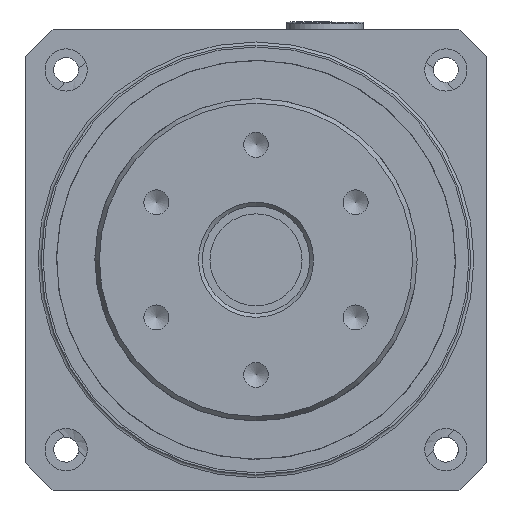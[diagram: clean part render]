
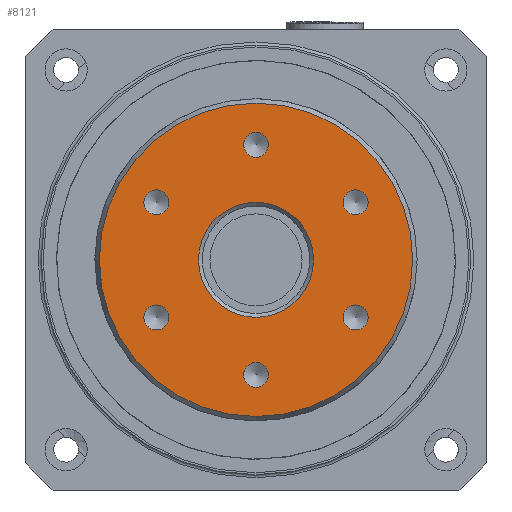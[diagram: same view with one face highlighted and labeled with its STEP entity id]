
A CAD part, left-side view. The second image highlights one B-rep face of the part: STEP entity #8121.
In plain terms, the highlighted planar face has unit normal (-1, 0, 0).
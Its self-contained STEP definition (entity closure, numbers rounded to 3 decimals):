
#729=FACE_BOUND('',#2179,.T.);
#730=FACE_BOUND('',#2180,.T.);
#731=FACE_BOUND('',#2181,.T.);
#732=FACE_BOUND('',#2182,.T.);
#733=FACE_BOUND('',#2183,.T.);
#734=FACE_BOUND('',#2184,.T.);
#735=FACE_BOUND('',#2185,.T.);
#1513=PLANE('',#9099);
#1690=FACE_OUTER_BOUND('',#2178,.T.);
#2178=EDGE_LOOP('',(#5971));
#2179=EDGE_LOOP('',(#5972,#5973));
#2180=EDGE_LOOP('',(#5974,#5975));
#2181=EDGE_LOOP('',(#5976,#5977));
#2182=EDGE_LOOP('',(#5978,#5979));
#2183=EDGE_LOOP('',(#5980,#5981));
#2184=EDGE_LOOP('',(#5982,#5983));
#2185=EDGE_LOOP('',(#5984));
#2781=CIRCLE('',#9096,7.5);
#2784=CIRCLE('',#9100,20.423);
#2785=CIRCLE('',#9101,1.621);
#2786=CIRCLE('',#9102,1.621);
#2787=CIRCLE('',#9103,1.621);
#2788=CIRCLE('',#9104,1.621);
#2789=CIRCLE('',#9105,1.621);
#2790=CIRCLE('',#9106,1.621);
#2791=CIRCLE('',#9107,1.621);
#2792=CIRCLE('',#9108,1.621);
#2793=CIRCLE('',#9109,1.621);
#2794=CIRCLE('',#9110,1.621);
#2795=CIRCLE('',#9111,1.621);
#2796=CIRCLE('',#9112,1.621);
#3628=VERTEX_POINT('',#13309);
#3631=VERTEX_POINT('',#13317);
#3632=VERTEX_POINT('',#13319);
#3633=VERTEX_POINT('',#13320);
#3634=VERTEX_POINT('',#13323);
#3635=VERTEX_POINT('',#13324);
#3636=VERTEX_POINT('',#13327);
#3637=VERTEX_POINT('',#13328);
#3638=VERTEX_POINT('',#13331);
#3639=VERTEX_POINT('',#13332);
#3640=VERTEX_POINT('',#13335);
#3641=VERTEX_POINT('',#13336);
#3642=VERTEX_POINT('',#13339);
#3643=VERTEX_POINT('',#13340);
#4617=EDGE_CURVE('',#3628,#3628,#2781,.T.);
#4621=EDGE_CURVE('',#3631,#3631,#2784,.T.);
#4622=EDGE_CURVE('',#3632,#3633,#2785,.T.);
#4623=EDGE_CURVE('',#3633,#3632,#2786,.T.);
#4624=EDGE_CURVE('',#3634,#3635,#2787,.T.);
#4625=EDGE_CURVE('',#3635,#3634,#2788,.T.);
#4626=EDGE_CURVE('',#3636,#3637,#2789,.T.);
#4627=EDGE_CURVE('',#3637,#3636,#2790,.T.);
#4628=EDGE_CURVE('',#3638,#3639,#2791,.T.);
#4629=EDGE_CURVE('',#3639,#3638,#2792,.T.);
#4630=EDGE_CURVE('',#3640,#3641,#2793,.T.);
#4631=EDGE_CURVE('',#3641,#3640,#2794,.T.);
#4632=EDGE_CURVE('',#3642,#3643,#2795,.T.);
#4633=EDGE_CURVE('',#3643,#3642,#2796,.T.);
#5971=ORIENTED_EDGE('',*,*,#4621,.F.);
#5972=ORIENTED_EDGE('',*,*,#4622,.T.);
#5973=ORIENTED_EDGE('',*,*,#4623,.T.);
#5974=ORIENTED_EDGE('',*,*,#4624,.T.);
#5975=ORIENTED_EDGE('',*,*,#4625,.T.);
#5976=ORIENTED_EDGE('',*,*,#4626,.T.);
#5977=ORIENTED_EDGE('',*,*,#4627,.T.);
#5978=ORIENTED_EDGE('',*,*,#4628,.T.);
#5979=ORIENTED_EDGE('',*,*,#4629,.T.);
#5980=ORIENTED_EDGE('',*,*,#4630,.T.);
#5981=ORIENTED_EDGE('',*,*,#4631,.T.);
#5982=ORIENTED_EDGE('',*,*,#4632,.T.);
#5983=ORIENTED_EDGE('',*,*,#4633,.T.);
#5984=ORIENTED_EDGE('',*,*,#4617,.F.);
#8121=ADVANCED_FACE('',(#1690,#729,#730,#731,#732,#733,#734,#735),#1513,
 .T.);
#9096=AXIS2_PLACEMENT_3D('',#13310,#10507,#10508);
#9099=AXIS2_PLACEMENT_3D('',#13316,#10514,#10515);
#9100=AXIS2_PLACEMENT_3D('',#13318,#10516,#10517);
#9101=AXIS2_PLACEMENT_3D('',#13321,#10518,#10519);
#9102=AXIS2_PLACEMENT_3D('',#13322,#10520,#10521);
#9103=AXIS2_PLACEMENT_3D('',#13325,#10522,#10523);
#9104=AXIS2_PLACEMENT_3D('',#13326,#10524,#10525);
#9105=AXIS2_PLACEMENT_3D('',#13329,#10526,#10527);
#9106=AXIS2_PLACEMENT_3D('',#13330,#10528,#10529);
#9107=AXIS2_PLACEMENT_3D('',#13333,#10530,#10531);
#9108=AXIS2_PLACEMENT_3D('',#13334,#10532,#10533);
#9109=AXIS2_PLACEMENT_3D('',#13337,#10534,#10535);
#9110=AXIS2_PLACEMENT_3D('',#13338,#10536,#10537);
#9111=AXIS2_PLACEMENT_3D('',#13341,#10538,#10539);
#9112=AXIS2_PLACEMENT_3D('',#13342,#10540,#10541);
#10507=DIRECTION('center_axis',(-1.,0.,0.));
#10508=DIRECTION('ref_axis',(0.,-1.,0.));
#10514=DIRECTION('center_axis',(-1.,0.,0.));
#10515=DIRECTION('ref_axis',(0.,0.,1.));
#10516=DIRECTION('center_axis',(1.,0.,0.));
#10517=DIRECTION('ref_axis',(0.,-1.,0.));
#10518=DIRECTION('center_axis',(1.,0.,0.));
#10519=DIRECTION('ref_axis',(0.,0.,1.));
#10520=DIRECTION('center_axis',(1.,0.,0.));
#10521=DIRECTION('ref_axis',(0.,0.,1.));
#10522=DIRECTION('center_axis',(1.,0.,0.));
#10523=DIRECTION('ref_axis',(0.,-0.866,0.5));
#10524=DIRECTION('center_axis',(1.,0.,0.));
#10525=DIRECTION('ref_axis',(0.,-0.866,0.5));
#10526=DIRECTION('center_axis',(1.,0.,0.));
#10527=DIRECTION('ref_axis',(0.,-0.866,-0.5));
#10528=DIRECTION('center_axis',(1.,0.,0.));
#10529=DIRECTION('ref_axis',(0.,-0.866,-0.5));
#10530=DIRECTION('center_axis',(1.,0.,0.));
#10531=DIRECTION('ref_axis',(0.,0.,-1.));
#10532=DIRECTION('center_axis',(1.,0.,0.));
#10533=DIRECTION('ref_axis',(0.,0.,-1.));
#10534=DIRECTION('center_axis',(1.,0.,0.));
#10535=DIRECTION('ref_axis',(0.,0.866,-0.5));
#10536=DIRECTION('center_axis',(1.,0.,0.));
#10537=DIRECTION('ref_axis',(0.,0.866,-0.5));
#10538=DIRECTION('center_axis',(1.,0.,0.));
#10539=DIRECTION('ref_axis',(0.,0.866,0.5));
#10540=DIRECTION('center_axis',(1.,0.,0.));
#10541=DIRECTION('ref_axis',(0.,0.866,0.5));
#13309=CARTESIAN_POINT('',(0.,7.5,0.));
#13310=CARTESIAN_POINT('Origin',(0.,0.,0.));
#13316=CARTESIAN_POINT('Origin',(0.,21.,0.));
#13317=CARTESIAN_POINT('',(0.,20.423,0.));
#13318=CARTESIAN_POINT('Origin',(0.,0.,0.));
#13319=CARTESIAN_POINT('',(0.,0.,-13.379));
#13320=CARTESIAN_POINT('',(0.,0.,-16.621));
#13321=CARTESIAN_POINT('Origin',(0.,0.,-15.));
#13322=CARTESIAN_POINT('Origin',(0.,0.,-15.));
#13323=CARTESIAN_POINT('',(0.,11.587,-6.69));
#13324=CARTESIAN_POINT('',(0.,14.394,-8.311));
#13325=CARTESIAN_POINT('Origin',(0.,12.99,-7.5));
#13326=CARTESIAN_POINT('Origin',(0.,12.99,-7.5));
#13327=CARTESIAN_POINT('',(0.,11.587,6.69));
#13328=CARTESIAN_POINT('',(0.,14.394,8.311));
#13329=CARTESIAN_POINT('Origin',(0.,12.99,7.5));
#13330=CARTESIAN_POINT('Origin',(0.,12.99,7.5));
#13331=CARTESIAN_POINT('',(0.,0.,13.379));
#13332=CARTESIAN_POINT('',(0.,0.,16.621));
#13333=CARTESIAN_POINT('Origin',(0.,0.,15.));
#13334=CARTESIAN_POINT('Origin',(0.,0.,15.));
#13335=CARTESIAN_POINT('',(0.,-11.587,6.69));
#13336=CARTESIAN_POINT('',(0.,-14.394,8.311));
#13337=CARTESIAN_POINT('Origin',(0.,-12.99,7.5));
#13338=CARTESIAN_POINT('Origin',(0.,-12.99,7.5));
#13339=CARTESIAN_POINT('',(0.,-11.587,-6.689));
#13340=CARTESIAN_POINT('',(0.,-14.394,-8.31));
#13341=CARTESIAN_POINT('Origin',(0.,-12.99,-7.5));
#13342=CARTESIAN_POINT('Origin',(0.,-12.99,-7.5));
